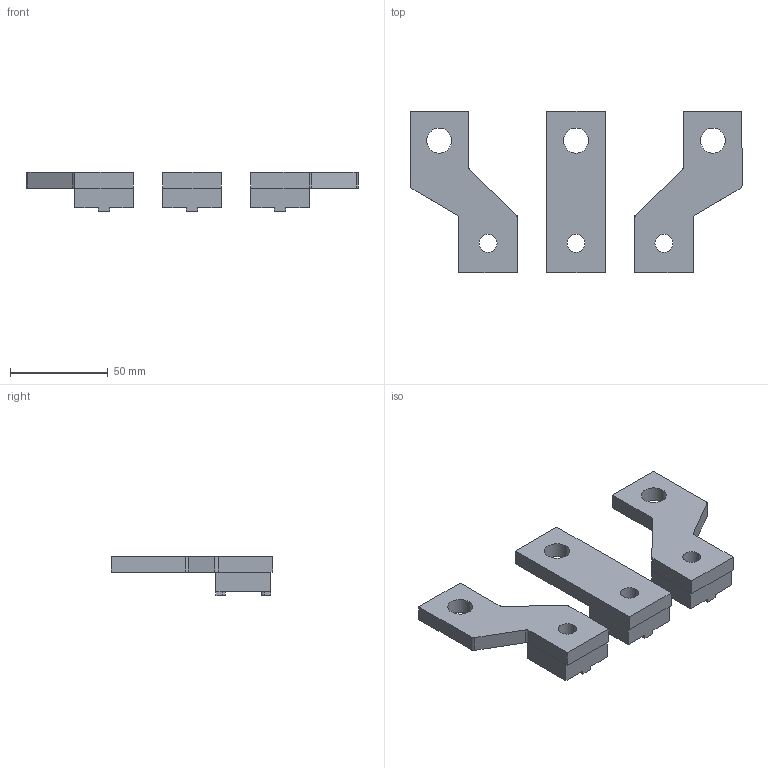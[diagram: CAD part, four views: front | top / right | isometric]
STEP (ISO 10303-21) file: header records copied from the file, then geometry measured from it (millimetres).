
FILE_DESCRIPTION (( 'STEP AP214' ), '1' );
FILE_NAME ('Ðàñøèðèòåëè ïîëþñîâ OptiMat D400, D630 äëèííûé (âåðõíèå).STEP', '2023-04-03T03:41:26', ( '' ), ( '' ), 'SwSTEP 2.0', 'SolidWorks 2018', '' );
FILE_SCHEMA (( 'AUTOMOTIVE_DESIGN' ));
Length unit declared in the file: millimetre
Products named in the file (1): Ðàñøèðèòåëè ïîëþñîâ OptiMat D400, D630 äëèííûé (âåðõíèå)
Bounding box: 169.8 x 82.5 x 20 mm (x, y, z)
Volume: 79971.3 mm3; surface area: 26158.9 mm2
Topology: 3 solids, 3 shells, 102 faces, 280 edges, 184 vertices
Faces by surface type: plane 70, cylinder 32
Entity records: 3304 total; most frequent: CARTESIAN_POINT 567, ORIENTED_EDGE 560, DIRECTION 554, EDGE_CURVE 280, LINE 212, VECTOR 212, VERTEX_POINT 184, AXIS2_PLACEMENT_3D 171
